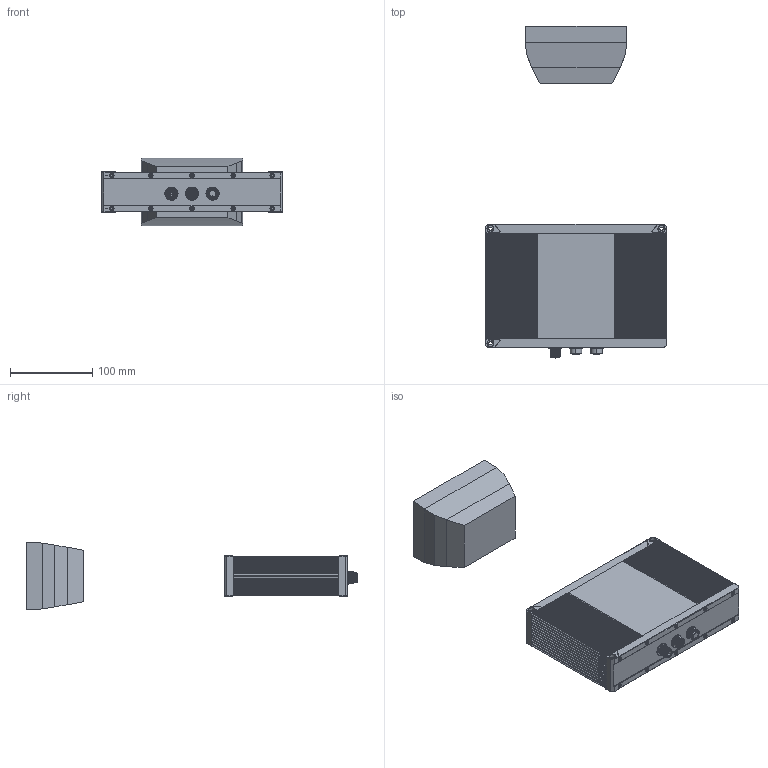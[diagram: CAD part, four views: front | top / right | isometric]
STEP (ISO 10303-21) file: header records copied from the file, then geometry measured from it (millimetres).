
FILE_DESCRIPTION((''),'2;1');
FILE_NAME('0000335333_ASM','2020-11-12T12:59:34',('11000116'),(''),'CREO PARAMETRIC BY PTC INC, 2020044','CREO PARAMETRIC BY PTC INC, 2020044','');
FILE_SCHEMA(('AUTOMOTIVE_DESIGN { 1 0 10303 214 1 1 1 1 }'));
Products named in the file (4): 0000335325; 0000303517; 0000343636; 0000335333_ASM
Assembly tree (3 placements, depth 2):
  0000335333_ASM
    0000335325
    0000303517
    0000343636
Bounding box: 220 x 403.5 x 82.5 mm (x, y, z)
Volume: 2110248.5 mm3; surface area: 242165.9 mm2
Topology: 5 solids, 9 shells, 2886 faces, 7589 edges, 4828 vertices
Faces by surface type: cylinder 1525, plane 1087, torus 127, cone 102, bspline 35, sphere 10
Entity records: 163508 total; most frequent: CARTESIAN_POINT 45740, DIRECTION 16803, ORIENTED_EDGE 15174, PRESENTATION_STYLE_ASSIGNMENT 10185, STYLED_ITEM 7614, CURVE_STYLE 7609, EDGE_CURVE 7587, AXIS2_PLACEMENT_3D 6671
